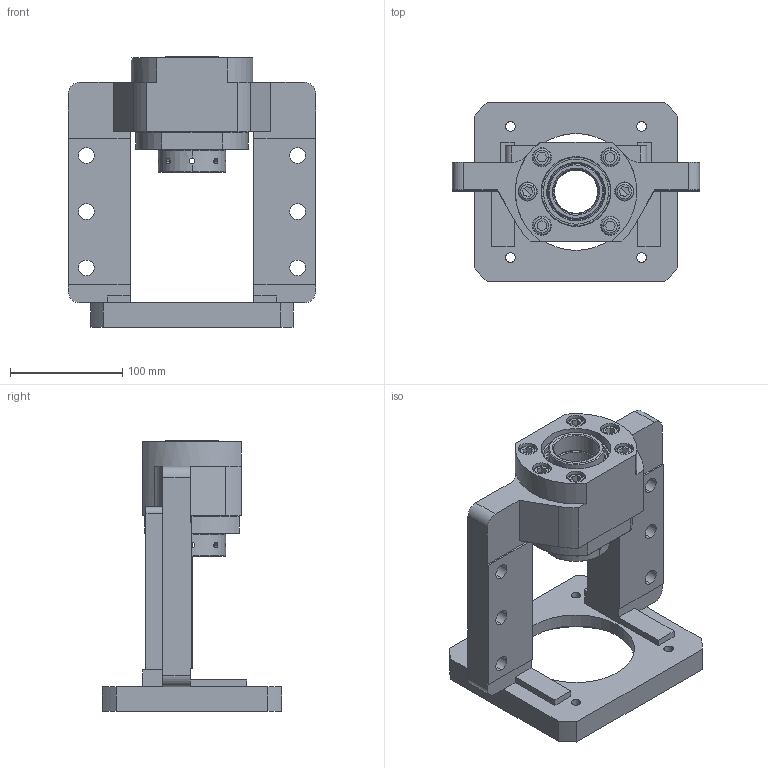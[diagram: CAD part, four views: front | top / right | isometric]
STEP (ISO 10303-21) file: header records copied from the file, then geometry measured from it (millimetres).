
FILE_DESCRIPTION (( 'STEP AP203' ), '1' );
FILE_NAME ('MBCK40L-I²Õ¦X¥ó.STEP', '2025-09-18T05:22:55', ( '' ), ( '' ), 'SwSTEP 2.0', 'SolidWorks 2018', '' );
FILE_SCHEMA (( 'CONFIG_CONTROL_DESIGN' ));
Length unit declared in the file: millimetre
Products named in the file (2): MBCK40L-I組合件
Bounding box: 220 x 160 x 241 mm (x, y, z)
Surface area: 237812.6 mm2 (no closed solid volume)
Topology: 0 solids, 32 shells, 344 faces, 953 edges, 633 vertices
Faces by surface type: cylinder 124, plane 123, cone 66, torus 18, bspline 13
Entity records: 30333 total; most frequent: CARTESIAN_POINT 21481, DIRECTION 1864, ORIENTED_EDGE 1663, EDGE_CURVE 941, AXIS2_PLACEMENT_3D 726, VERTEX_POINT 633, EDGE_LOOP 420, LINE 412
